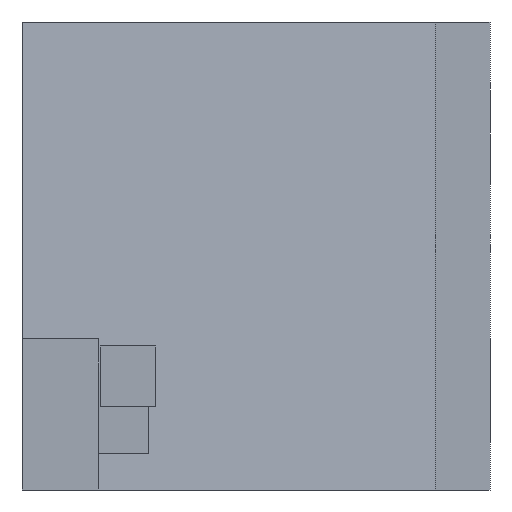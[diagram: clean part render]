
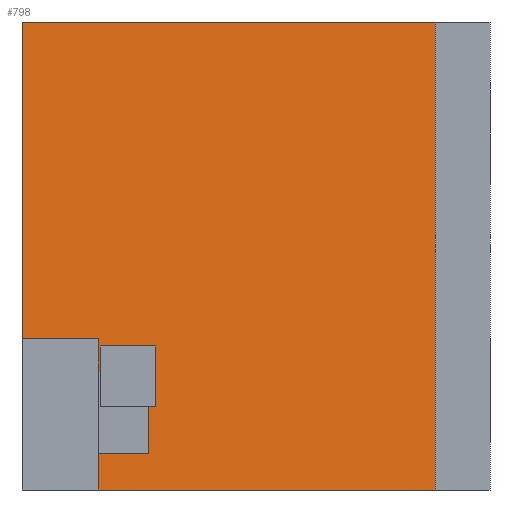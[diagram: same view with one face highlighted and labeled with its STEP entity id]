
A CAD part, front view. The second image highlights one B-rep face of the part: STEP entity #798.
In plain terms, the highlighted planar face has unit normal (0, -0.996, 0.087).
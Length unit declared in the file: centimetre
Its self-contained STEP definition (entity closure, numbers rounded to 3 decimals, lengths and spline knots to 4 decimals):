
#19 = CARTESIAN_POINT ( 'NONE',  ( 167.1495, 141.5973, 307.7002 ) ) ;
#28 = VERTEX_POINT ( 'NONE', #1387 ) ;
#37 = LINE ( 'NONE', #744, #47 ) ;
#39 = DIRECTION ( 'NONE',  ( 1., 0., 0. ) ) ;
#42 = EDGE_CURVE ( 'NONE', #764, #1300, #580, .T. ) ;
#47 = VECTOR ( 'NONE', #503, 100. ) ;
#75 = DIRECTION ( 'NONE',  ( -1., 0., 0. ) ) ;
#84 = DIRECTION ( 'NONE',  ( 0., 0.087, 0.996 ) ) ;
#87 = DIRECTION ( 'NONE',  ( -1., 0., 0. ) ) ;
#93 = EDGE_LOOP ( 'NONE', ( #1361, #161, #144, #370, #136, #752, #739, #664, #1422, #1091, #1237, #357, #1335, #1000 ) ) ;
#124 = EDGE_CURVE ( 'NONE', #434, #635, #177, .T. ) ;
#135 = CARTESIAN_POINT ( 'NONE',  ( 270.0485, 121.4784, 77.278 ) ) ;
#136 = ORIENTED_EDGE ( 'NONE', *, *, #417, .T. ) ;
#140 = CARTESIAN_POINT ( 'NONE',  ( 285.0983, 130.3104, 178.4311 ) ) ;
#144 = ORIENTED_EDGE ( 'NONE', *, *, #124, .T. ) ;
#161 = ORIENTED_EDGE ( 'NONE', *, *, #966, .T. ) ;
#177 = LINE ( 'NONE', #1250, #318 ) ;
#178 = LINE ( 'NONE', #1376, #856 ) ;
#187 = EDGE_CURVE ( 'NONE', #1270, #649, #1147, .T. ) ;
#202 = CARTESIAN_POINT ( 'NONE',  ( 167.1495, 136.7007, 251.6194 ) ) ;
#203 = EDGE_CURVE ( 'NONE', #28, #647, #1045, .T. ) ;
#207 = DIRECTION ( 'NONE',  ( 0., 0.996, -0.087 ) ) ;
#215 = DIRECTION ( 'NONE',  ( 0., -0.087, -0.996 ) ) ;
#275 = VERTEX_POINT ( 'NONE', #1287 ) ;
#286 = LINE ( 'NONE', #1424, #502 ) ;
#296 = VECTOR ( 'NONE', #39, 100. ) ;
#318 = VECTOR ( 'NONE', #441, 100. ) ;
#340 = EDGE_CURVE ( 'NONE', #1300, #775, #436, .T. ) ;
#344 = VECTOR ( 'NONE', #1293, 100. ) ;
#357 = ORIENTED_EDGE ( 'NONE', *, *, #1345, .T. ) ;
#370 = ORIENTED_EDGE ( 'NONE', *, *, #989, .T. ) ;
#417 = EDGE_CURVE ( 'NONE', #1377, #1270, #457, .T. ) ;
#422 = VECTOR ( 'NONE', #689, 100. ) ;
#423 = DIRECTION ( 'NONE',  ( 0., -0.087, -0.996 ) ) ;
#429 = CARTESIAN_POINT ( 'NONE',  ( 883.4835, 114.731, 0. ) ) ;
#434 = VERTEX_POINT ( 'NONE', #202 ) ;
#436 = LINE ( 'NONE', #429, #637 ) ;
#441 = DIRECTION ( 'NONE',  ( 0., 0.087, 0.996 ) ) ;
#442 = LINE ( 'NONE', #1368, #934 ) ;
#456 = LINE ( 'NONE', #1145, #1353 ) ;
#457 = LINE ( 'NONE', #1044, #1205 ) ;
#502 = VECTOR ( 'NONE', #1415, 100. ) ;
#503 = DIRECTION ( 'NONE',  ( -1., 0., 0. ) ) ;
#537 = VERTEX_POINT ( 'NONE', #735 ) ;
#559 = CARTESIAN_POINT ( 'NONE',  ( 0., 202.0442, 1000. ) ) ;
#565 = PLANE ( 'NONE',  #1452 ) ;
#580 = LINE ( 'NONE', #814, #344 ) ;
#593 = CARTESIAN_POINT ( 'NONE',  ( 883.4835, 141.5973, 307.7002 ) ) ;
#635 = VERTEX_POINT ( 'NONE', #19 ) ;
#637 = VECTOR ( 'NONE', #75, 100. ) ;
#645 = CARTESIAN_POINT ( 'NONE',  ( 0., 143.0121, 323.9037 ) ) ;
#647 = VERTEX_POINT ( 'NONE', #645 ) ;
#649 = VERTEX_POINT ( 'NONE', #1121 ) ;
#664 = ORIENTED_EDGE ( 'NONE', *, *, #1024, .T. ) ;
#689 = DIRECTION ( 'NONE',  ( -1., 0., 0. ) ) ;
#735 = CARTESIAN_POINT ( 'NONE',  ( 163.1947, 121.4784, 77.278 ) ) ;
#739 = ORIENTED_EDGE ( 'NONE', *, *, #961, .T. ) ;
#744 = CARTESIAN_POINT ( 'NONE',  ( 883.4835, 202.0442, 1000. ) ) ;
#752 = ORIENTED_EDGE ( 'NONE', *, *, #187, .T. ) ;
#764 = VERTEX_POINT ( 'NONE', #1388 ) ;
#775 = VERTEX_POINT ( 'NONE', #1294 ) ;
#798 = ADVANCED_FACE ( 'NONE', ( #1133 ), #565, .F. ) ;
#814 = CARTESIAN_POINT ( 'NONE',  ( 883.4835, 202.0442, 1000. ) ) ;
#837 = EDGE_CURVE ( 'NONE', #537, #775, #456, .T. ) ;
#856 = VECTOR ( 'NONE', #1255, 100. ) ;
#872 = VERTEX_POINT ( 'NONE', #559 ) ;
#934 = VECTOR ( 'NONE', #87, 100. ) ;
#936 = CARTESIAN_POINT ( 'NONE',  ( 883.4835, 202.0442, 1000. ) ) ;
#948 = CARTESIAN_POINT ( 'NONE',  ( 883.4835, 143.0121, 323.9037 ) ) ;
#961 = EDGE_CURVE ( 'NONE', #649, #1155, #286, .T. ) ;
#966 = EDGE_CURVE ( 'NONE', #275, #434, #1451, .T. ) ;
#973 = CARTESIAN_POINT ( 'NONE',  ( 883.4835, 114.731, 0. ) ) ;
#989 = EDGE_CURVE ( 'NONE', #635, #1377, #1211, .T. ) ;
#1000 = ORIENTED_EDGE ( 'NONE', *, *, #203, .F. ) ;
#1024 = EDGE_CURVE ( 'NONE', #1155, #537, #442, .T. ) ;
#1025 = LINE ( 'NONE', #1241, #1181 ) ;
#1044 = CARTESIAN_POINT ( 'NONE',  ( 285.0983, 202.0442, 1000. ) ) ;
#1045 = LINE ( 'NONE', #948, #422 ) ;
#1081 = VECTOR ( 'NONE', #1514, 100. ) ;
#1082 = EDGE_CURVE ( 'NONE', #872, #647, #178, .T. ) ;
#1091 = ORIENTED_EDGE ( 'NONE', *, *, #340, .F. ) ;
#1095 = EDGE_CURVE ( 'NONE', #28, #275, #1025, .T. ) ;
#1121 = CARTESIAN_POINT ( 'NONE',  ( 270.0485, 130.3104, 178.4311 ) ) ;
#1133 = FACE_OUTER_BOUND ( 'NONE', #93, .T. ) ;
#1145 = CARTESIAN_POINT ( 'NONE',  ( 163.1947, 202.0442, 1000. ) ) ;
#1147 = LINE ( 'NONE', #1418, #1081 ) ;
#1152 = VECTOR ( 'NONE', #1219, 100. ) ;
#1155 = VERTEX_POINT ( 'NONE', #135 ) ;
#1172 = CARTESIAN_POINT ( 'NONE',  ( 883.4835, 136.7007, 251.6194 ) ) ;
#1181 = VECTOR ( 'NONE', #423, 100. ) ;
#1205 = VECTOR ( 'NONE', #1408, 100. ) ;
#1211 = LINE ( 'NONE', #593, #1152 ) ;
#1219 = DIRECTION ( 'NONE',  ( 1., 0., 0. ) ) ;
#1237 = ORIENTED_EDGE ( 'NONE', *, *, #42, .F. ) ;
#1241 = CARTESIAN_POINT ( 'NONE',  ( 163.1947, 202.0442, 1000. ) ) ;
#1250 = CARTESIAN_POINT ( 'NONE',  ( 167.1495, 202.0442, 1000. ) ) ;
#1255 = DIRECTION ( 'NONE',  ( 0., -0.087, -0.996 ) ) ;
#1270 = VERTEX_POINT ( 'NONE', #140 ) ;
#1287 = CARTESIAN_POINT ( 'NONE',  ( 163.1947, 136.7007, 251.6194 ) ) ;
#1293 = DIRECTION ( 'NONE',  ( 0., -0.087, -0.996 ) ) ;
#1294 = CARTESIAN_POINT ( 'NONE',  ( 163.1947, 114.731, 0. ) ) ;
#1300 = VERTEX_POINT ( 'NONE', #973 ) ;
#1335 = ORIENTED_EDGE ( 'NONE', *, *, #1082, .T. ) ;
#1345 = EDGE_CURVE ( 'NONE', #764, #872, #37, .T. ) ;
#1353 = VECTOR ( 'NONE', #215, 100. ) ;
#1361 = ORIENTED_EDGE ( 'NONE', *, *, #1095, .T. ) ;
#1368 = CARTESIAN_POINT ( 'NONE',  ( 883.4835, 121.4784, 77.278 ) ) ;
#1376 = CARTESIAN_POINT ( 'NONE',  ( 0., 202.0442, 1000. ) ) ;
#1377 = VERTEX_POINT ( 'NONE', #1437 ) ;
#1387 = CARTESIAN_POINT ( 'NONE',  ( 163.1947, 143.0121, 323.9037 ) ) ;
#1388 = CARTESIAN_POINT ( 'NONE',  ( 883.4835, 202.0442, 1000. ) ) ;
#1408 = DIRECTION ( 'NONE',  ( 0., -0.087, -0.996 ) ) ;
#1415 = DIRECTION ( 'NONE',  ( 0., -0.087, -0.996 ) ) ;
#1418 = CARTESIAN_POINT ( 'NONE',  ( 883.4835, 130.3104, 178.4311 ) ) ;
#1422 = ORIENTED_EDGE ( 'NONE', *, *, #837, .T. ) ;
#1424 = CARTESIAN_POINT ( 'NONE',  ( 270.0485, 202.0442, 1000. ) ) ;
#1437 = CARTESIAN_POINT ( 'NONE',  ( 285.0983, 141.5973, 307.7002 ) ) ;
#1451 = LINE ( 'NONE', #1172, #296 ) ;
#1452 = AXIS2_PLACEMENT_3D ( 'NONE', #936, #207, #84 ) ;
#1514 = DIRECTION ( 'NONE',  ( -1., 0., 0. ) ) ;
